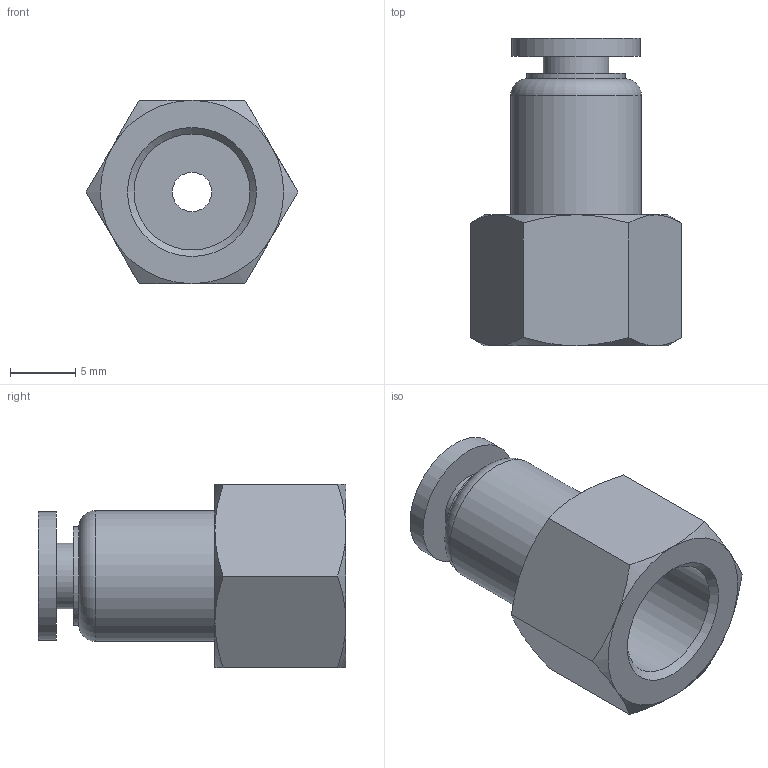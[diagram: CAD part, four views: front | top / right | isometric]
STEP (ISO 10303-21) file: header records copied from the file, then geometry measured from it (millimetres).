
FILE_DESCRIPTION(/* description */ (''),/* implementation_level */ '2;1');
FILE_NAME(/* name */ 'S:\_Tecnico\ArchivioUT\_Disegni3D ingombri\DISEGNI 3D per ingombri\RP\RP 52\RP521804.stp',/* time_stamp */ '2019-07-29T09:06:36+02:00',/* author */ ('ufficiotecnico3'),/* organization */ (''),/* preprocessor_version */ 'ST-DEVELOPER v18',/* originating_system */ 'Autodesk Inventor 2020',/* authorisation */ '');
FILE_SCHEMA (('AUTOMOTIVE_DESIGN { 1 0 10303 214 3 1 1 }'));
Length unit declared in the file: millimetre
Products named in the file (1): RP521804
Bounding box: 16.17 x 23.5 x 14 mm (x, y, z)
Volume: 1937.1 mm3; surface area: 1701.2 mm2
Topology: 1 solids, 1 shells, 34 faces, 78 edges, 51 vertices
Faces by surface type: cone 13, plane 13, cylinder 7, torus 1
Full cylindrical faces by diameter (mm): 3 x1, 4 x1, 5 x1, 7.5 x1, 8.848 x1, 9.8 x1, 10 x1
Entity records: 999 total; most frequent: CARTESIAN_POINT 212, DIRECTION 164, ORIENTED_EDGE 156, EDGE_CURVE 78, AXIS2_PLACEMENT_3D 75, VERTEX_POINT 51, EDGE_LOOP 41, CIRCLE 40
